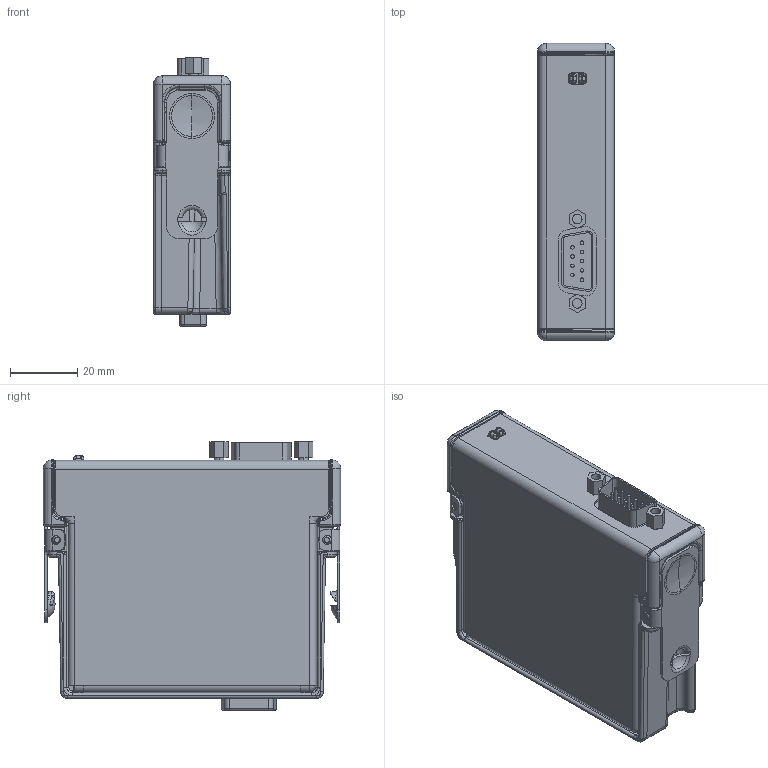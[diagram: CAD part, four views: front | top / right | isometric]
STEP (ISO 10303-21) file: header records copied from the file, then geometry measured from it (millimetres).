
FILE_DESCRIPTION((''),'2;1');
FILE_NAME('CU_MOD_CRIO_DB9','2012-03-29T',('talbott'),(''),'PRO/ENGINEER BY PARAMETRIC TECHNOLOGY CORPORATION, 2010230','PRO/ENGINEER BY PARAMETRIC TECHNOLOGY CORPORATION, 2010230','');
FILE_SCHEMA(('CONFIG_CONTROL_DESIGN'));
Products named in the file (1): CU_MOD_CRIO_DB9
Bounding box: 22.86 x 88.11 x 79.63 mm (x, y, z)
Volume: 42619.6 mm3; surface area: 47813.9 mm2
Topology: 13 solids, 13 shells, 1471 faces, 3491 edges, 2096 vertices
Faces by surface type: plane 523, cylinder 523, bspline 272, torus 59, cone 47, sphere 44, extrusion 3
Entity records: 58095 total; most frequent: CARTESIAN_POINT 26170, ORIENTED_EDGE 6934, DIRECTION 6117, EDGE_CURVE 3467, AXIS2_PLACEMENT_3D 2218, VERTEX_POINT 2096, VECTOR 1681, LINE 1678
